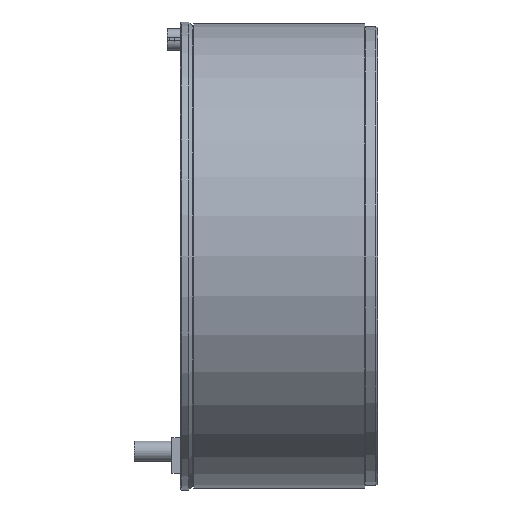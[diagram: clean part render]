
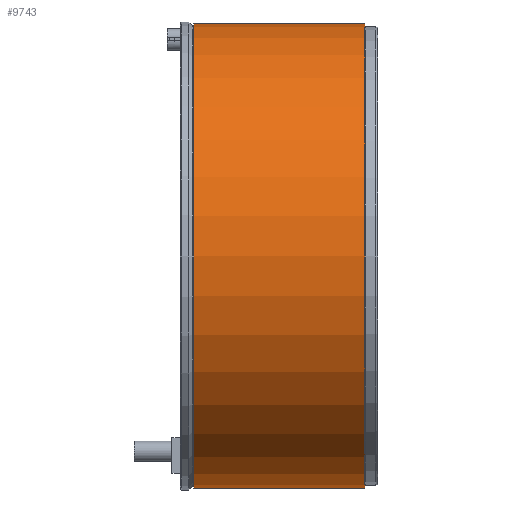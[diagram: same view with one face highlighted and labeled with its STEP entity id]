
A CAD part, left-side view. The second image highlights one B-rep face of the part: STEP entity #9743.
In plain terms, the highlighted cylindrical face has radius 247 mm (diameter 494 mm), a partial arc.
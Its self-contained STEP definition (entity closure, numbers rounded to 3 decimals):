
#688 = LINE ( 'NONE', #11042, #3397 ) ;
#929 = AXIS2_PLACEMENT_3D ( 'NONE', #8200, #5819, #11684 ) ;
#974 = EDGE_CURVE ( 'NONE', #14836, #13030, #1473, .T. ) ;
#1473 = LINE ( 'NONE', #2366, #14120 ) ;
#1659 = FACE_OUTER_BOUND ( 'NONE', #5867, .T. ) ;
#1884 = EDGE_CURVE ( 'NONE', #5593, #13030, #11964, .T. ) ;
#2366 = CARTESIAN_POINT ( 'NONE',  ( 0., 0., -247. ) ) ;
#2813 = EDGE_CURVE ( 'NONE', #11374, #14836, #9557, .T. ) ;
#3397 = VECTOR ( 'NONE', #4113, 1000. ) ;
#3551 = EDGE_CURVE ( 'NONE', #11374, #5593, #688, .T. ) ;
#3813 = CARTESIAN_POINT ( 'NONE',  ( 0., 14., -247. ) ) ;
#4113 = DIRECTION ( 'NONE',  ( 0., -1., 0. ) ) ;
#5445 = CARTESIAN_POINT ( 'NONE',  ( 0., 0., 0. ) ) ;
#5593 = VERTEX_POINT ( 'NONE', #14681 ) ;
#5819 = DIRECTION ( 'NONE',  ( 0., -1., 0. ) ) ;
#5867 = EDGE_LOOP ( 'NONE', ( #12273, #14714, #11795, #10473 ) ) ;
#6043 = CARTESIAN_POINT ( 'NONE',  ( 0., 196., 247. ) ) ;
#6456 = CARTESIAN_POINT ( 'NONE',  ( 0., 14., 0. ) ) ;
#7660 = DIRECTION ( 'NONE',  ( 0., -1., 0. ) ) ;
#8200 = CARTESIAN_POINT ( 'NONE',  ( 0., 196., 0. ) ) ;
#8771 = DIRECTION ( 'NONE',  ( 0., 0., -1. ) ) ;
#8843 = DIRECTION ( 'NONE',  ( 0., 0., -1. ) ) ;
#9557 = CIRCLE ( 'NONE', #929, 247. ) ;
#9743 = ADVANCED_FACE ( 'NONE', ( #1659 ), #12875, .T. ) ;
#9748 = AXIS2_PLACEMENT_3D ( 'NONE', #6456, #7660, #8771 ) ;
#10473 = ORIENTED_EDGE ( 'NONE', *, *, #1884, .F. ) ;
#10477 = DIRECTION ( 'NONE',  ( 0., -1., 0. ) ) ;
#11042 = CARTESIAN_POINT ( 'NONE',  ( 0., 0., 247. ) ) ;
#11374 = VERTEX_POINT ( 'NONE', #6043 ) ;
#11684 = DIRECTION ( 'NONE',  ( 0., 0., -1. ) ) ;
#11795 = ORIENTED_EDGE ( 'NONE', *, *, #974, .T. ) ;
#11964 = CIRCLE ( 'NONE', #9748, 247. ) ;
#12273 = ORIENTED_EDGE ( 'NONE', *, *, #3551, .F. ) ;
#12444 = DIRECTION ( 'NONE',  ( 0., -1., 0. ) ) ;
#12802 = CARTESIAN_POINT ( 'NONE',  ( 0., 196., -247. ) ) ;
#12875 = CYLINDRICAL_SURFACE ( 'NONE', #13426, 247. ) ;
#13030 = VERTEX_POINT ( 'NONE', #3813 ) ;
#13426 = AXIS2_PLACEMENT_3D ( 'NONE', #5445, #12444, #8843 ) ;
#14120 = VECTOR ( 'NONE', #10477, 1000. ) ;
#14681 = CARTESIAN_POINT ( 'NONE',  ( 0., 14., 247. ) ) ;
#14714 = ORIENTED_EDGE ( 'NONE', *, *, #2813, .T. ) ;
#14836 = VERTEX_POINT ( 'NONE', #12802 ) ;
